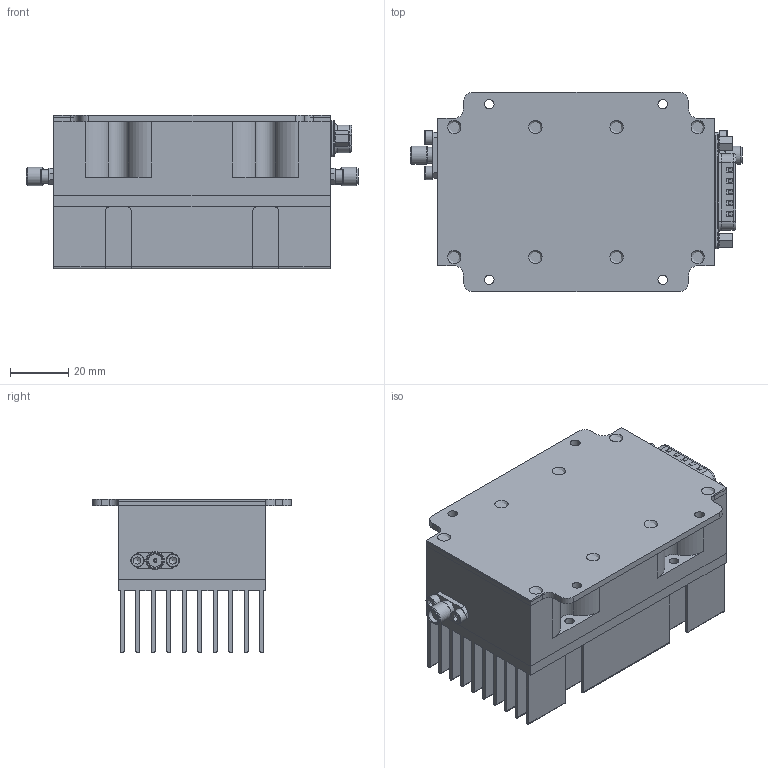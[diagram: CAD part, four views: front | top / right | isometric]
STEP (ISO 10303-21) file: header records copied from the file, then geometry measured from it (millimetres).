
FILE_DESCRIPTION((''),'2;1');
FILE_NAME('\\SERPENTOR\Engineering\ENG\Models\TAxxxx\TA1003 30-2500 MHz 8W GaN\Inventor\102_HS.stp','2015-07-29T16:05:01',('dcampbell'),(''),'Autodesk Inventor 2013','Autodesk Inventor 2013','');
FILE_SCHEMA(('AUTOMOTIVE_DESIGN { 1 0 10303 214 1 1 1 1 }'));
Length unit declared in the file: inch
Products named in the file (9): 3D_TA1003; TA1003_HSG_3D; SMA; 7W2; PIN; JS; Hexagon Socket Head Cap Screw - Inch No. 4 - 40 UNC - 1/4; T5013C252; T52148051
Assembly tree (14 placements, depth 2):
  3D_TA1003
    TA1003_HSG_3D
    SMA  x2
    7W2
    PIN  x2
    JS  x2
    Hexagon Socket Head Cap Screw - Inch No. 4 - 40 UNC - 1/4  x4
    T5013C252
    T52148051
Bounding box: 114.3 x 68.58 x 52.83 mm (x, y, z)
Volume: 185139.3 mm3; surface area: 87545.7 mm2
Topology: 14 solids, 14 shells, 769 faces, 1920 edges, 1244 vertices
Faces by surface type: plane 434, cylinder 234, cone 46, torus 41, bspline 7, sphere 7
Full cylindrical faces by diameter (mm): 0.737 x2, 1 x10, 1.245 x2, 1.27 x2, 1.295 x2, 1.6 x5, 1.702 x4, 2.159 x2, 2.261 x2, 2.438 x8, 2.591 x4, 2.769 x2, 2.845 x4, 3 x2, 3.175 x8, 3.277 x4, 3.6 x4, 4.597 x2, 4.6 x2, 4.648 x4, 4.73 x4, 5.28 x2, 5.486 x4, 5.5 x2, 6.35 x2
Entity records: 20151 total; most frequent: CARTESIAN_POINT 4141, DIRECTION 3280, ORIENTED_EDGE 3056, EDGE_CURVE 1528, AXIS2_PLACEMENT_3D 1153, VERTEX_POINT 1042, VECTOR 974, LINE 974
